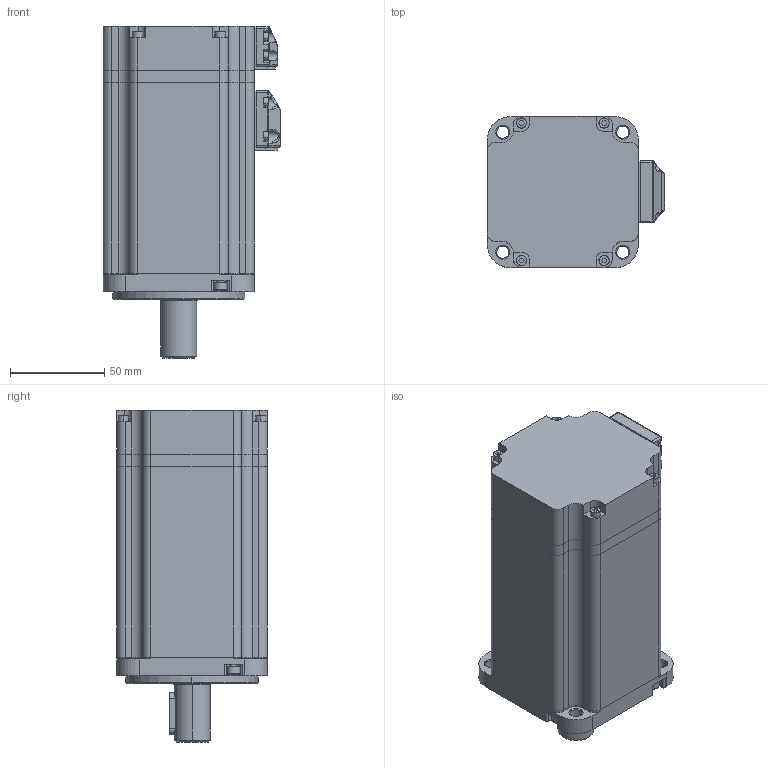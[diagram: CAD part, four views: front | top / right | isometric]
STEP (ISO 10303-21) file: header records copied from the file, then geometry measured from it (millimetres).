
FILE_DESCRIPTION (( 'STEP AP203' ), '1' );
FILE_NAME ('9.5853.STEP', '2020-08-04T06:07:19', ( 'K' ), ( 'K' ), 'SwSTEP 2.0', 'SolidWorks 2018', '' );
FILE_SCHEMA (( 'CONFIG_CONTROL_DESIGN' ));
Length unit declared in the file: millimetre
Products named in the file (1): 9.5853
Bounding box: 94 x 80 x 176 mm (x, y, z)
Volume: 322272.8 mm3; surface area: 172752.7 mm2
Topology: 35 solids, 35 shells, 1558 faces, 4126 edges, 2637 vertices
Faces by surface type: cylinder 671, plane 581, torus 130, cone 114, sphere 54, bspline 8
Entity records: 49707 total; most frequent: CARTESIAN_POINT 10734, DIRECTION 8488, ORIENTED_EDGE 7972, EDGE_CURVE 3986, AXIS2_PLACEMENT_3D 3291, VERTEX_POINT 2573, LINE 1906, VECTOR 1906
